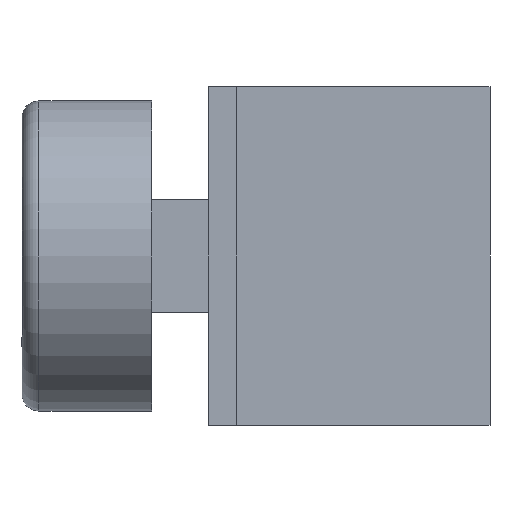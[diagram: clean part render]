
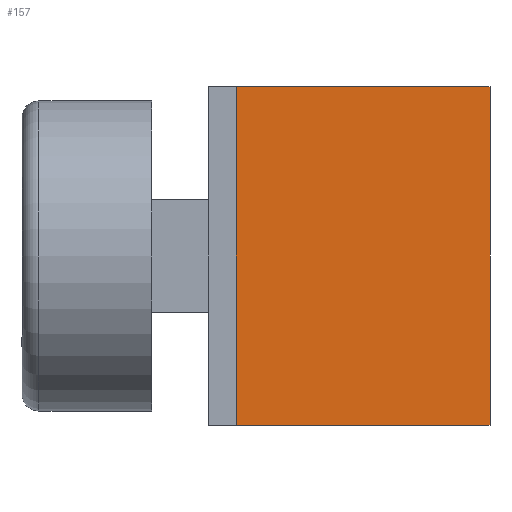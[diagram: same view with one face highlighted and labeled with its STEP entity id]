
A CAD part, left-side view. The second image highlights one B-rep face of the part: STEP entity #157.
In plain terms, the highlighted planar face has unit normal (-1, 0, 0).
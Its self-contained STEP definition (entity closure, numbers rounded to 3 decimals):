
#9 = DIRECTION ( 'NONE',  ( 1., 0., 0. ) ) ;
#96 = AXIS2_PLACEMENT_3D ( 'NONE', #241, #9, #163 ) ;
#157 = ADVANCED_FACE ( 'NONE', ( #880 ), #862, .F. ) ;
#163 = DIRECTION ( 'NONE',  ( 0., 0., -1. ) ) ;
#190 = ORIENTED_EDGE ( 'NONE', *, *, #765, .T. ) ;
#197 = VERTEX_POINT ( 'NONE', #870 ) ;
#220 = DIRECTION ( 'NONE',  ( 0., -1., 0. ) ) ;
#221 = VERTEX_POINT ( 'NONE', #465 ) ;
#241 = CARTESIAN_POINT ( 'NONE',  ( -5.75, -5., 3. ) ) ;
#271 = ORIENTED_EDGE ( 'NONE', *, *, #739, .F. ) ;
#273 = VECTOR ( 'NONE', #509, 1000. ) ;
#294 = CARTESIAN_POINT ( 'NONE',  ( -5.75, -5., -3. ) ) ;
#307 = DIRECTION ( 'NONE',  ( 0., 0., -1. ) ) ;
#316 = LINE ( 'NONE', #703, #421 ) ;
#338 = LINE ( 'NONE', #656, #273 ) ;
#355 = CARTESIAN_POINT ( 'NONE',  ( -5.75, -0.5, -3. ) ) ;
#359 = LINE ( 'NONE', #294, #599 ) ;
#419 = CARTESIAN_POINT ( 'NONE',  ( -5.75, -5., -3. ) ) ;
#421 = VECTOR ( 'NONE', #307, 1000. ) ;
#428 = VECTOR ( 'NONE', #672, 1000. ) ;
#429 = EDGE_CURVE ( 'NONE', #197, #679, #316, .T. ) ;
#465 = CARTESIAN_POINT ( 'NONE',  ( -5.75, -0.5, -3. ) ) ;
#483 = EDGE_LOOP ( 'NONE', ( #271, #190, #1031, #825 ) ) ;
#509 = DIRECTION ( 'NONE',  ( 0., -1., 0. ) ) ;
#599 = VECTOR ( 'NONE', #220, 1000. ) ;
#656 = CARTESIAN_POINT ( 'NONE',  ( -5.75, -5., 3. ) ) ;
#671 = EDGE_CURVE ( 'NONE', #992, #197, #338, .T. ) ;
#672 = DIRECTION ( 'NONE',  ( 0., 0., 1. ) ) ;
#679 = VERTEX_POINT ( 'NONE', #419 ) ;
#703 = CARTESIAN_POINT ( 'NONE',  ( -5.75, -5., 3. ) ) ;
#739 = EDGE_CURVE ( 'NONE', #221, #992, #744, .T. ) ;
#744 = LINE ( 'NONE', #355, #428 ) ;
#747 = CARTESIAN_POINT ( 'NONE',  ( -5.75, -0.5, 3. ) ) ;
#765 = EDGE_CURVE ( 'NONE', #221, #679, #359, .T. ) ;
#825 = ORIENTED_EDGE ( 'NONE', *, *, #671, .F. ) ;
#862 = PLANE ( 'NONE',  #96 ) ;
#870 = CARTESIAN_POINT ( 'NONE',  ( -5.75, -5., 3. ) ) ;
#880 = FACE_OUTER_BOUND ( 'NONE', #483, .T. ) ;
#992 = VERTEX_POINT ( 'NONE', #747 ) ;
#1031 = ORIENTED_EDGE ( 'NONE', *, *, #429, .F. ) ;
